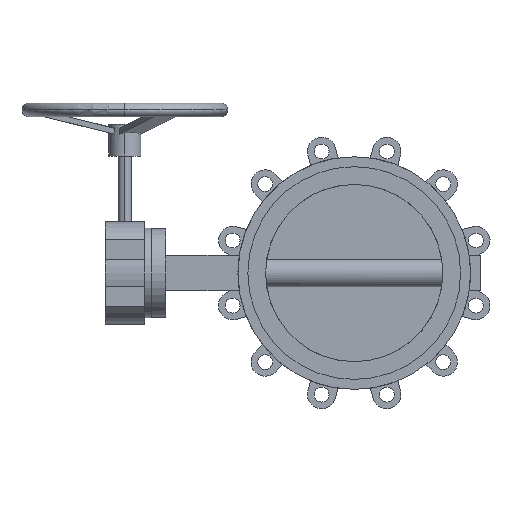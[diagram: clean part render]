
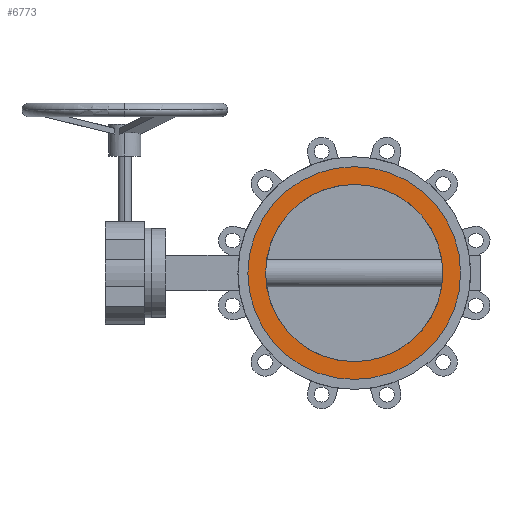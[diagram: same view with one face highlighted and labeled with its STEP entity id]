
A CAD part, left-side view. The second image highlights one B-rep face of the part: STEP entity #6773.
In plain terms, the highlighted planar face has unit normal (-1, 0, 0).
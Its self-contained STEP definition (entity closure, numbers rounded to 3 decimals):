
#80 = CIRCLE ( 'NONE', #2643, 150. ) ;
#661 = VERTEX_POINT ( 'NONE', #2090 ) ;
#1140 = CIRCLE ( 'NONE', #5453, 125. ) ;
#1325 = PLANE ( 'NONE',  #5726 ) ;
#1862 = CARTESIAN_POINT ( 'NONE',  ( -38.5, 0., -125. ) ) ;
#2002 = EDGE_LOOP ( 'NONE', ( #7675, #4222 ) ) ;
#2026 = VERTEX_POINT ( 'NONE', #6879 ) ;
#2090 = CARTESIAN_POINT ( 'NONE',  ( -38.5, 0., 150. ) ) ;
#2181 = AXIS2_PLACEMENT_3D ( 'NONE', #2460, #6397, #7736 ) ;
#2354 = CARTESIAN_POINT ( 'NONE',  ( -38.5, 0., -150. ) ) ;
#2460 = CARTESIAN_POINT ( 'NONE',  ( -38.5, 0., 0. ) ) ;
#2643 = AXIS2_PLACEMENT_3D ( 'NONE', #7385, #8075, #3572 ) ;
#2684 = DIRECTION ( 'NONE',  ( 0., 0., -1. ) ) ;
#2948 = EDGE_CURVE ( 'NONE', #661, #6056, #80, .T. ) ;
#3374 = ORIENTED_EDGE ( 'NONE', *, *, #6878, .F. ) ;
#3558 = ORIENTED_EDGE ( 'NONE', *, *, #2948, .F. ) ;
#3572 = DIRECTION ( 'NONE',  ( 0., 0., -1. ) ) ;
#3893 = DIRECTION ( 'NONE',  ( 0., 0., -1. ) ) ;
#3968 = CARTESIAN_POINT ( 'NONE',  ( -38.5, 0., 0. ) ) ;
#4064 = EDGE_LOOP ( 'NONE', ( #3558, #3374 ) ) ;
#4222 = ORIENTED_EDGE ( 'NONE', *, *, #7229, .T. ) ;
#4361 = CIRCLE ( 'NONE', #5450, 150. ) ;
#4428 = FACE_BOUND ( 'NONE', #2002, .T. ) ;
#5450 = AXIS2_PLACEMENT_3D ( 'NONE', #3968, #5948, #2684 ) ;
#5453 = AXIS2_PLACEMENT_3D ( 'NONE', #7141, #6547, #7879 ) ;
#5726 = AXIS2_PLACEMENT_3D ( 'NONE', #6429, #7721, #3893 ) ;
#5948 = DIRECTION ( 'NONE',  ( 1., 0., 0. ) ) ;
#6056 = VERTEX_POINT ( 'NONE', #2354 ) ;
#6397 = DIRECTION ( 'NONE',  ( 1., 0., 0. ) ) ;
#6429 = CARTESIAN_POINT ( 'NONE',  ( -38.5, 0., 0. ) ) ;
#6547 = DIRECTION ( 'NONE',  ( 1., 0., 0. ) ) ;
#6773 = ADVANCED_FACE ( 'NONE', ( #7798, #4428 ), #1325, .F. ) ;
#6829 = VERTEX_POINT ( 'NONE', #1862 ) ;
#6878 = EDGE_CURVE ( 'NONE', #6056, #661, #4361, .T. ) ;
#6879 = CARTESIAN_POINT ( 'NONE',  ( -38.5, 0., 125. ) ) ;
#7141 = CARTESIAN_POINT ( 'NONE',  ( -38.5, 0., 0. ) ) ;
#7229 = EDGE_CURVE ( 'NONE', #6829, #2026, #7230, .T. ) ;
#7230 = CIRCLE ( 'NONE', #2181, 125. ) ;
#7385 = CARTESIAN_POINT ( 'NONE',  ( -38.5, 0., 0. ) ) ;
#7675 = ORIENTED_EDGE ( 'NONE', *, *, #7734, .T. ) ;
#7721 = DIRECTION ( 'NONE',  ( 1., 0., 0. ) ) ;
#7734 = EDGE_CURVE ( 'NONE', #2026, #6829, #1140, .T. ) ;
#7736 = DIRECTION ( 'NONE',  ( 0., 0., -1. ) ) ;
#7798 = FACE_OUTER_BOUND ( 'NONE', #4064, .T. ) ;
#7879 = DIRECTION ( 'NONE',  ( 0., 0., -1. ) ) ;
#8075 = DIRECTION ( 'NONE',  ( 1., 0., 0. ) ) ;
